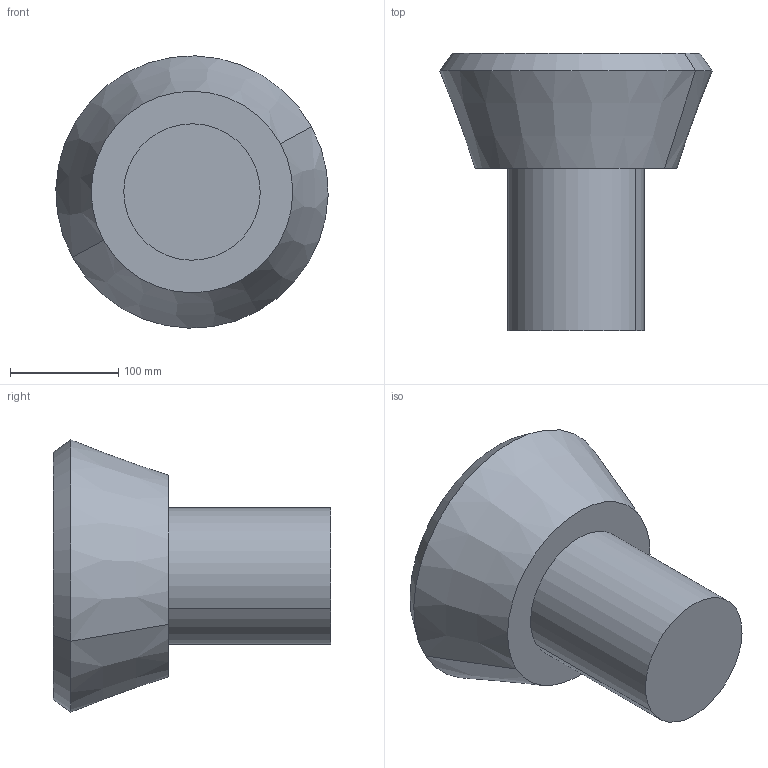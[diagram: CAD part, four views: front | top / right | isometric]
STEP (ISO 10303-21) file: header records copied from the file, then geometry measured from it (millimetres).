
FILE_DESCRIPTION(('CATIA V5 STEP Exchange'),'2;1');
FILE_NAME('C:\_Andres\UNIVERSIDAD\IQS\ASIGNATURAS\DAO\EXF\EXF-15161c\1original\Busquet_Ribera_Ej09-optimiza_v3.stp','2016-03-04T21:55:27+00:00',('none'),('none'),'CATIA Version 5 Release 20 SP 1 (IN-10)','CATIA V5 STEP AP203','none');
FILE_SCHEMA(('CONFIG_CONTROL_DESIGN'));
Length unit declared in the file: millimetre
Products named in the file (1): Busquet_Ribera_Ej09-optimiza_v3
Bounding box: 251.3 x 256.19 x 251.3 mm (x, y, z)
Volume: 5990707 mm3; surface area: 212656.2 mm2
Topology: 1 solids, 2 shells, 13 faces, 22 edges, 14 vertices
Faces by surface type: plane 5, cylinder 4, cone 4
Entity records: 324 total; most frequent: CARTESIAN_POINT 47, ORIENTED_EDGE 44, DIRECTION 42, AXIS2_PLACEMENT_3D 25, EDGE_CURVE 22, CIRCLE 14, EDGE_LOOP 14, VERTEX_POINT 14
